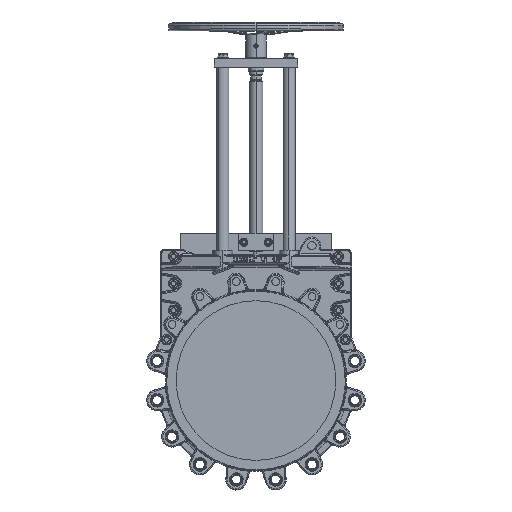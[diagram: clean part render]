
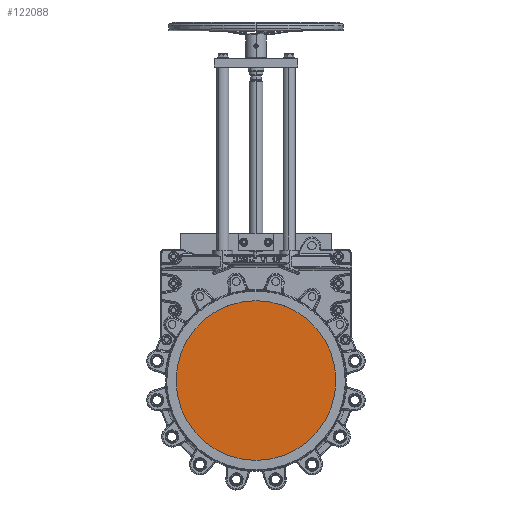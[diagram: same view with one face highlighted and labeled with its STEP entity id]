
A CAD part, top view. The second image highlights one B-rep face of the part: STEP entity #122088.
In plain terms, the highlighted planar face has unit normal (0, 0, 1).
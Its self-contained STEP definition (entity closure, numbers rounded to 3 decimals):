
#10751 = DIRECTION ( 'NONE',  ( 1., 0., 0. ) ) ;
#16767 = CIRCLE ( 'NONE', #41759, 228.6 ) ;
#26622 = DIRECTION ( 'NONE',  ( 1., 0., 0. ) ) ;
#41759 = AXIS2_PLACEMENT_3D ( 'NONE', #76729, #141006, #127997 ) ;
#58533 = ORIENTED_EDGE ( 'NONE', *, *, #132174, .T. ) ;
#61978 = FACE_OUTER_BOUND ( 'NONE', #121384, .T. ) ;
#76619 = CARTESIAN_POINT ( 'NONE',  ( 0., 0., -0.25 ) ) ;
#76729 = CARTESIAN_POINT ( 'NONE',  ( 0., 0., -0.25 ) ) ;
#80441 = CIRCLE ( 'NONE', #102595, 228.6 ) ;
#80876 = EDGE_CURVE ( 'NONE', #121107, #94555, #80441, .T. ) ;
#94555 = VERTEX_POINT ( 'NONE', #167915 ) ;
#102595 = AXIS2_PLACEMENT_3D ( 'NONE', #148909, #109808, #26622 ) ;
#109808 = DIRECTION ( 'NONE',  ( 0., 0., 1. ) ) ;
#114830 = PLANE ( 'NONE',  #161385 ) ;
#121107 = VERTEX_POINT ( 'NONE', #151720 ) ;
#121384 = EDGE_LOOP ( 'NONE', ( #58533, #132057 ) ) ;
#122088 = ADVANCED_FACE ( 'NONE', ( #61978 ), #114830, .T. ) ;
#127997 = DIRECTION ( 'NONE',  ( 1., 0., 0. ) ) ;
#132057 = ORIENTED_EDGE ( 'NONE', *, *, #80876, .T. ) ;
#132174 = EDGE_CURVE ( 'NONE', #94555, #121107, #16767, .T. ) ;
#141006 = DIRECTION ( 'NONE',  ( 0., 0., 1. ) ) ;
#148909 = CARTESIAN_POINT ( 'NONE',  ( 0., 0., -0.25 ) ) ;
#151720 = CARTESIAN_POINT ( 'NONE',  ( 228.6, 0., -0.25 ) ) ;
#161385 = AXIS2_PLACEMENT_3D ( 'NONE', #76619, #167799, #10751 ) ;
#167799 = DIRECTION ( 'NONE',  ( 0., 0., 1. ) ) ;
#167915 = CARTESIAN_POINT ( 'NONE',  ( -228.6, 0., -0.25 ) ) ;
